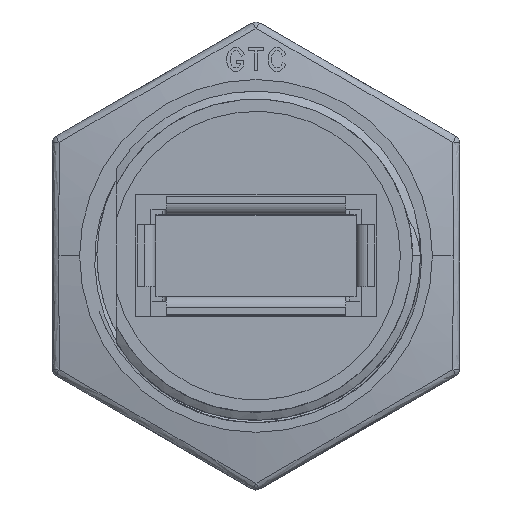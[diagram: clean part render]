
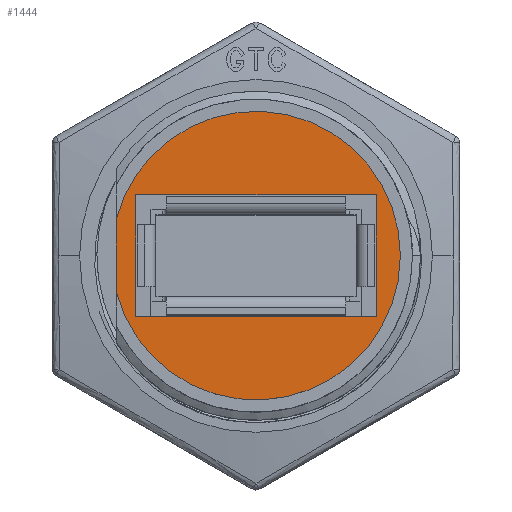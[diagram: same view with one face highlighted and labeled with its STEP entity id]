
A CAD part, top view. The second image highlights one B-rep face of the part: STEP entity #1444.
In plain terms, the highlighted planar face has unit normal (0, 0, 1).
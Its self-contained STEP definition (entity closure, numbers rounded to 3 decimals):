
#1444 = ADVANCED_FACE ( 'NONE', ( #39843, #39851 ), #40367, .F. ) ;
#2997 = VERTEX_POINT ( 'NONE', #13847 ) ;
#2999 = VERTEX_POINT ( 'NONE', #13849 ) ;
#3126 = VERTEX_POINT ( 'NONE', #13934 ) ;
#3131 = VERTEX_POINT ( 'NONE', #13933 ) ;
#3132 = VERTEX_POINT ( 'NONE', #13938 ) ;
#3135 = VERTEX_POINT ( 'NONE', #13940 ) ;
#3140 = VERTEX_POINT ( 'NONE', #13944 ) ;
#4110 = EDGE_CURVE ( 'NONE', #2997, #2999, #18204, .T. ) ;
#4200 = EDGE_CURVE ( 'NONE', #3126, #3132, #18415, .T. ) ;
#4201 = EDGE_CURVE ( 'NONE', #3131, #3126, #18413, .T. ) ;
#4202 = EDGE_CURVE ( 'NONE', #3135, #3131, #18416, .T. ) ;
#4203 = EDGE_CURVE ( 'NONE', #3132, #3135, #18418, .T. ) ;
#4204 = EDGE_CURVE ( 'NONE', #2999, #3140, #18420, .T. ) ;
#4205 = EDGE_CURVE ( 'NONE', #2997, #3140, #18424, .T. ) ;
#5228 = ORIENTED_EDGE ( 'NONE', *, *, #4200, .F. ) ;
#5229 = ORIENTED_EDGE ( 'NONE', *, *, #4201, .F. ) ;
#5230 = ORIENTED_EDGE ( 'NONE', *, *, #4202, .F. ) ;
#5231 = ORIENTED_EDGE ( 'NONE', *, *, #4203, .F. ) ;
#5232 = ORIENTED_EDGE ( 'NONE', *, *, #4110, .T. ) ;
#5233 = ORIENTED_EDGE ( 'NONE', *, *, #4204, .T. ) ;
#5234 = ORIENTED_EDGE ( 'NONE', *, *, #4205, .F. ) ;
#5618 = EDGE_LOOP ( 'NONE', ( #5228, #5229, #5230, #5231 ) ) ;
#5619 = EDGE_LOOP ( 'NONE', ( #5232, #5233, #5234 ) ) ;
#13847 = CARTESIAN_POINT ( 'NONE',  ( -8.7, -2.304, 0. ) ) ;
#13849 = CARTESIAN_POINT ( 'NONE',  ( 9., 0., 0. ) ) ;
#13933 = CARTESIAN_POINT ( 'NONE',  ( -7.5, 3.8, 0. ) ) ;
#13934 = CARTESIAN_POINT ( 'NONE',  ( -7.5, -3.8, 0. ) ) ;
#13938 = CARTESIAN_POINT ( 'NONE',  ( 7.5, -3.8, 0. ) ) ;
#13940 = CARTESIAN_POINT ( 'NONE',  ( 7.5, 3.8, 0. ) ) ;
#13944 = CARTESIAN_POINT ( 'NONE',  ( -8.7, 2.304, 0. ) ) ;
#18204 = CIRCLE ( 'NONE', #41356, 9. ) ;
#18413 = LINE ( 'NONE', #19932, #18419 ) ;
#18415 = LINE ( 'NONE', #19941, #18417 ) ;
#18416 = LINE ( 'NONE', #19934, #18421 ) ;
#18417 = VECTOR ( 'NONE', #19945, 1000. ) ;
#18418 = LINE ( 'NONE', #19943, #18423 ) ;
#18419 = VECTOR ( 'NONE', #19947, 1000. ) ;
#18420 = CIRCLE ( 'NONE', #41364, 9. ) ;
#18421 = VECTOR ( 'NONE', #19951, 1000. ) ;
#18423 = VECTOR ( 'NONE', #19956, 1000. ) ;
#18424 = LINE ( 'NONE', #19959, #18426 ) ;
#18426 = VECTOR ( 'NONE', #19954, 1000. ) ;
#19059 = CARTESIAN_POINT ( 'NONE',  ( 0., 0., 0. ) ) ;
#19060 = DIRECTION ( 'NONE',  ( 0., 0., 1. ) ) ;
#19061 = DIRECTION ( 'NONE',  ( 1., 0., 0. ) ) ;
#19932 = CARTESIAN_POINT ( 'NONE',  ( -7.5, 3.8, 0. ) ) ;
#19934 = CARTESIAN_POINT ( 'NONE',  ( -7.5, 3.8, 0. ) ) ;
#19941 = CARTESIAN_POINT ( 'NONE',  ( -7.5, -3.8, 0. ) ) ;
#19943 = CARTESIAN_POINT ( 'NONE',  ( 7.5, 3.8, 0. ) ) ;
#19945 = DIRECTION ( 'NONE',  ( 1., 0., 0. ) ) ;
#19947 = DIRECTION ( 'NONE',  ( 0., -1., 0. ) ) ;
#19951 = DIRECTION ( 'NONE',  ( -1., 0., 0. ) ) ;
#19954 = DIRECTION ( 'NONE',  ( 0., 1., 0. ) ) ;
#19956 = DIRECTION ( 'NONE',  ( 0., 1., 0. ) ) ;
#19959 = CARTESIAN_POINT ( 'NONE',  ( -8.7, 11.972, 0. ) ) ;
#19967 = CARTESIAN_POINT ( 'NONE',  ( 0., 0., 0. ) ) ;
#19969 = DIRECTION ( 'NONE',  ( 0., 0., 1. ) ) ;
#19971 = DIRECTION ( 'NONE',  ( 1., 0., 0. ) ) ;
#39843 = FACE_BOUND ( 'NONE', #5618, .T. ) ;
#39851 = FACE_OUTER_BOUND ( 'NONE', #5619, .T. ) ;
#40364 = CARTESIAN_POINT ( 'NONE',  ( 0., 0., 0. ) ) ;
#40367 = PLANE ( 'NONE',  #41162 ) ;
#40369 = DIRECTION ( 'NONE',  ( 0., 0., -1. ) ) ;
#40370 = DIRECTION ( 'NONE',  ( -1., 0., 0. ) ) ;
#41162 = AXIS2_PLACEMENT_3D ( 'NONE', #40364, #40369, #40370 ) ;
#41356 = AXIS2_PLACEMENT_3D ( 'NONE', #19059, #19060, #19061 ) ;
#41364 = AXIS2_PLACEMENT_3D ( 'NONE', #19967, #19969, #19971 ) ;
